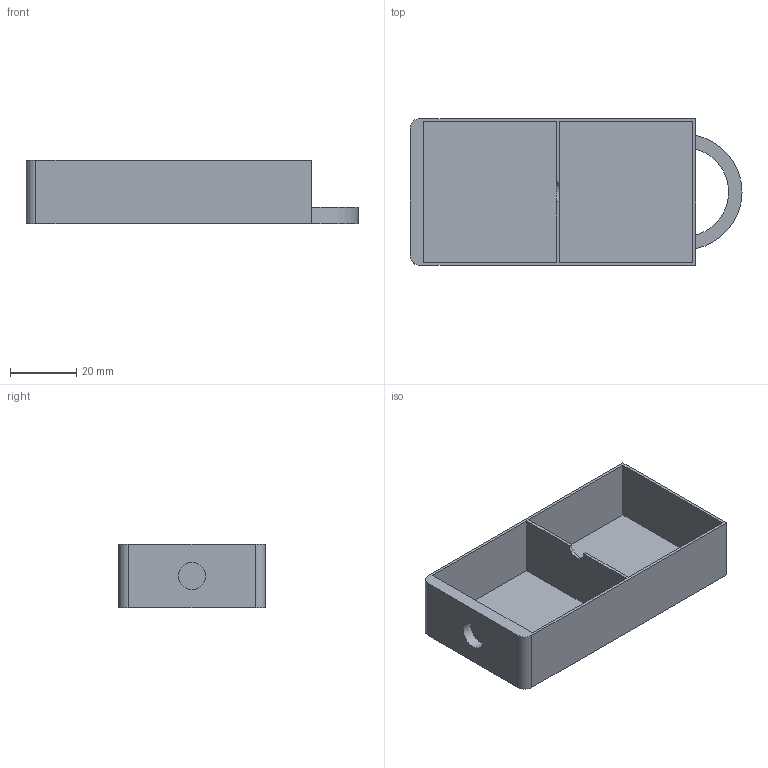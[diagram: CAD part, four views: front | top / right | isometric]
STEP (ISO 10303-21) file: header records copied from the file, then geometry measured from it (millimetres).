
FILE_DESCRIPTION(/* description */ (''),/* implementation_level */ '2;1');
FILE_NAME(/* name */ 'C:/Users/pet3r/Desktop/3D/MOJE/My Drawers/STEP/Drawer 1x1 2-slot.step',/* time_stamp */ '2018-03-31T21:33:25+02:00',/* author */ (''),/* organization */ (''),/* preprocessor_version */ 'ST-DEVELOPER v16.13',/* originating_system */ 'Autodesk Translation Framework v6.5.0.72',/* authorisation */ '');
FILE_SCHEMA (('AUTOMOTIVE_DESIGN { 1 0 10303 214 3 1 1 }'));
Length unit declared in the file: millimetre
Products named in the file (1): Drawer 1x1 2-slot
Bounding box: 100 x 44.2 x 19.2 mm (x, y, z)
Volume: 11325.6 mm3; surface area: 19349.4 mm2
Topology: 1 solids, 1 shells, 24 faces, 63 edges, 42 vertices
Faces by surface type: plane 18, cylinder 6
Full cylindrical faces by diameter (mm): 8.3 x1
Entity records: 783 total; most frequent: CARTESIAN_POINT 130, ORIENTED_EDGE 126, DIRECTION 125, EDGE_CURVE 63, LINE 51, VECTOR 51, VERTEX_POINT 42, AXIS2_PLACEMENT_3D 37
